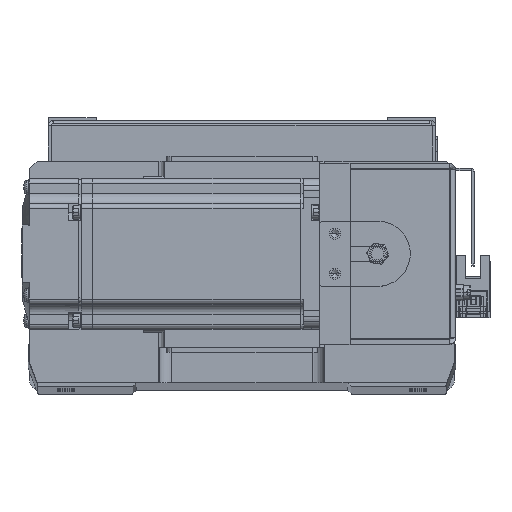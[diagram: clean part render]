
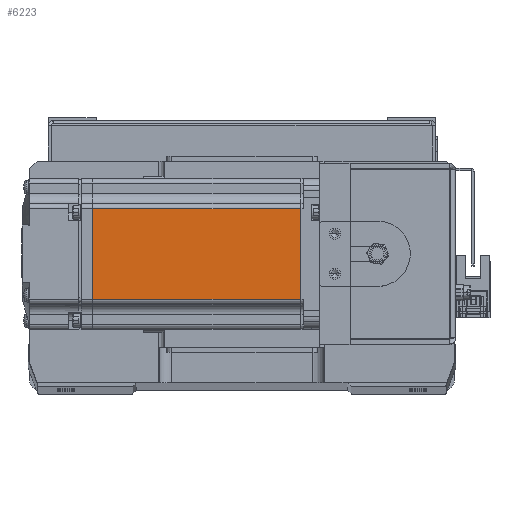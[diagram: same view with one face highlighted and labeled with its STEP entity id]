
A CAD part, top view. The second image highlights one B-rep face of the part: STEP entity #6223.
In plain terms, the highlighted planar face has unit normal (0, 0, 1) as drawn and (0, 1, 0) by its records, which use the part's own axes.
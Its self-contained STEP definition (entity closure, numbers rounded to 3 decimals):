
#118 = ORIENTED_EDGE ( 'NONE', *, *, #13874, .T. ) ;
#634 = CARTESIAN_POINT ( 'NONE',  ( -7.75, 30., -18. ) ) ;
#1734 = VECTOR ( 'NONE', #8237, 1000. ) ;
#3748 = CARTESIAN_POINT ( 'NONE',  ( -90.45, 30., 0. ) ) ;
#6223 = ADVANCED_FACE ( 'NONE', ( #17514 ), #30122, .T. ) ;
#6865 = VECTOR ( 'NONE', #25440, 1000. ) ;
#8237 = DIRECTION ( 'NONE',  ( 1., 0., 0. ) ) ;
#10224 = CARTESIAN_POINT ( 'NONE',  ( -90.45, 30., -18. ) ) ;
#10371 = EDGE_CURVE ( 'NONE', #33776, #20078, #21940, .T. ) ;
#11471 = DIRECTION ( 'NONE',  ( -1., 0., 0. ) ) ;
#11676 = CARTESIAN_POINT ( 'NONE',  ( -6.5, 30., -18. ) ) ;
#12495 = ORIENTED_EDGE ( 'NONE', *, *, #18150, .T. ) ;
#13874 = EDGE_CURVE ( 'NONE', #33776, #20263, #33666, .T. ) ;
#14814 = ORIENTED_EDGE ( 'NONE', *, *, #10371, .F. ) ;
#17331 = CARTESIAN_POINT ( 'NONE',  ( -7.75, 30., 18. ) ) ;
#17514 = FACE_OUTER_BOUND ( 'NONE', #21767, .T. ) ;
#18150 = EDGE_CURVE ( 'NONE', #33544, #20078, #23117, .T. ) ;
#20078 = VERTEX_POINT ( 'NONE', #17331 ) ;
#20263 = VERTEX_POINT ( 'NONE', #10224 ) ;
#20417 = CARTESIAN_POINT ( 'NONE',  ( -6.5, 30., 25. ) ) ;
#20629 = DIRECTION ( 'NONE',  ( 0., 1., 0. ) ) ;
#21767 = EDGE_LOOP ( 'NONE', ( #14814, #118, #31884, #12495 ) ) ;
#21940 = LINE ( 'NONE', #31242, #6865 ) ;
#23117 = LINE ( 'NONE', #38854, #1734 ) ;
#25440 = DIRECTION ( 'NONE',  ( 0., 0., 1. ) ) ;
#30122 = PLANE ( 'NONE',  #36986 ) ;
#31242 = CARTESIAN_POINT ( 'NONE',  ( -7.75, 30., 0. ) ) ;
#31884 = ORIENTED_EDGE ( 'NONE', *, *, #33856, .T. ) ;
#32751 = LINE ( 'NONE', #3748, #38530 ) ;
#33477 = DIRECTION ( 'NONE',  ( 0., 0., 1. ) ) ;
#33544 = VERTEX_POINT ( 'NONE', #34651 ) ;
#33666 = LINE ( 'NONE', #11676, #34627 ) ;
#33776 = VERTEX_POINT ( 'NONE', #634 ) ;
#33856 = EDGE_CURVE ( 'NONE', #20263, #33544, #32751, .T. ) ;
#34627 = VECTOR ( 'NONE', #11471, 1000. ) ;
#34651 = CARTESIAN_POINT ( 'NONE',  ( -90.45, 30., 18. ) ) ;
#36986 = AXIS2_PLACEMENT_3D ( 'NONE', #20417, #20629, #33477 ) ;
#38530 = VECTOR ( 'NONE', #38544, 1000. ) ;
#38544 = DIRECTION ( 'NONE',  ( 0., 0., 1. ) ) ;
#38854 = CARTESIAN_POINT ( 'NONE',  ( -6.5, 30., 18. ) ) ;
